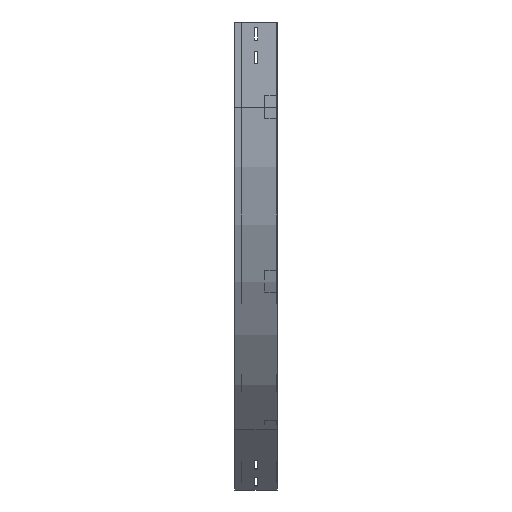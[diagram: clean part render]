
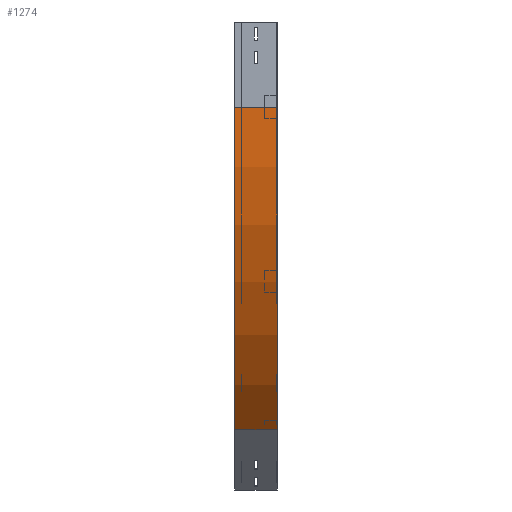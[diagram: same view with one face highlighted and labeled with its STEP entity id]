
A CAD part, left-side view. The second image highlights one B-rep face of the part: STEP entity #1274.
In plain terms, the highlighted cylindrical face has radius 800 mm (diameter 1600 mm), a partial arc.
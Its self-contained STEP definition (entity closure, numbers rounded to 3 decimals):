
#16 = CARTESIAN_POINT ( 'NONE',  ( 0., 0., -150. ) ) ;
#20 = EDGE_LOOP ( 'NONE', ( #1221, #3105, #2216, #2236 ) ) ;
#49 = VERTEX_POINT ( 'NONE', #3705 ) ;
#65 = CYLINDRICAL_SURFACE ( 'NONE', #274, 800. ) ;
#71 = EDGE_CURVE ( 'NONE', #3575, #49, #387, .T. ) ;
#77 = CARTESIAN_POINT ( 'NONE',  ( 800., 0., -150. ) ) ;
#143 = DIRECTION ( 'NONE',  ( -1., 0., 0. ) ) ;
#274 = AXIS2_PLACEMENT_3D ( 'NONE', #1244, #3630, #955 ) ;
#378 = VERTEX_POINT ( 'NONE', #16 ) ;
#387 = CIRCLE ( 'NONE', #3180, 800. ) ;
#403 = VECTOR ( 'NONE', #1569, 1000. ) ;
#535 = VECTOR ( 'NONE', #937, 1000. ) ;
#647 = FACE_OUTER_BOUND ( 'NONE', #20, .T. ) ;
#668 = VERTEX_POINT ( 'NONE', #978 ) ;
#726 = EDGE_CURVE ( 'NONE', #3575, #378, #3613, .T. ) ;
#937 = DIRECTION ( 'NONE',  ( 0., -1., 0. ) ) ;
#955 = DIRECTION ( 'NONE',  ( 0., 0., -1. ) ) ;
#958 = CARTESIAN_POINT ( 'NONE',  ( 0., 0., -150. ) ) ;
#978 = CARTESIAN_POINT ( 'NONE',  ( 234.315, 0., -715.685 ) ) ;
#1221 = ORIENTED_EDGE ( 'NONE', *, *, #1588, .F. ) ;
#1244 = CARTESIAN_POINT ( 'NONE',  ( 800., 0., -150. ) ) ;
#1274 = ADVANCED_FACE ( 'NONE', ( #647 ), #65, .T. ) ;
#1393 = CARTESIAN_POINT ( 'NONE',  ( 0., 75., -150. ) ) ;
#1569 = DIRECTION ( 'NONE',  ( 0., -1., 0. ) ) ;
#1588 = EDGE_CURVE ( 'NONE', #378, #668, #3506, .T. ) ;
#1638 = DIRECTION ( 'NONE',  ( 0., -1., 0. ) ) ;
#2181 = AXIS2_PLACEMENT_3D ( 'NONE', #77, #2396, #3330 ) ;
#2216 = ORIENTED_EDGE ( 'NONE', *, *, #71, .T. ) ;
#2236 = ORIENTED_EDGE ( 'NONE', *, *, #2494, .T. ) ;
#2396 = DIRECTION ( 'NONE',  ( 0., -1., 0. ) ) ;
#2494 = EDGE_CURVE ( 'NONE', #49, #668, #3085, .T. ) ;
#2804 = CARTESIAN_POINT ( 'NONE',  ( 800., 75., -150. ) ) ;
#3029 = CARTESIAN_POINT ( 'NONE',  ( 234.315, 0., -715.685 ) ) ;
#3085 = LINE ( 'NONE', #3029, #403 ) ;
#3105 = ORIENTED_EDGE ( 'NONE', *, *, #726, .F. ) ;
#3180 = AXIS2_PLACEMENT_3D ( 'NONE', #2804, #1638, #143 ) ;
#3330 = DIRECTION ( 'NONE',  ( -1., 0., 0. ) ) ;
#3506 = CIRCLE ( 'NONE', #2181, 800. ) ;
#3575 = VERTEX_POINT ( 'NONE', #1393 ) ;
#3613 = LINE ( 'NONE', #958, #535 ) ;
#3630 = DIRECTION ( 'NONE',  ( 0., -1., 0. ) ) ;
#3705 = CARTESIAN_POINT ( 'NONE',  ( 234.315, 75., -715.685 ) ) ;
